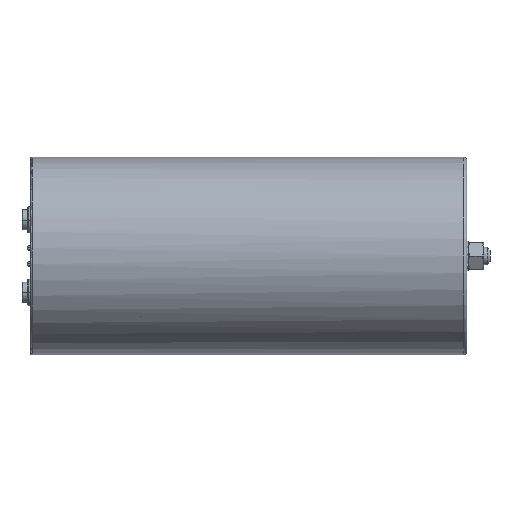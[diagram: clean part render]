
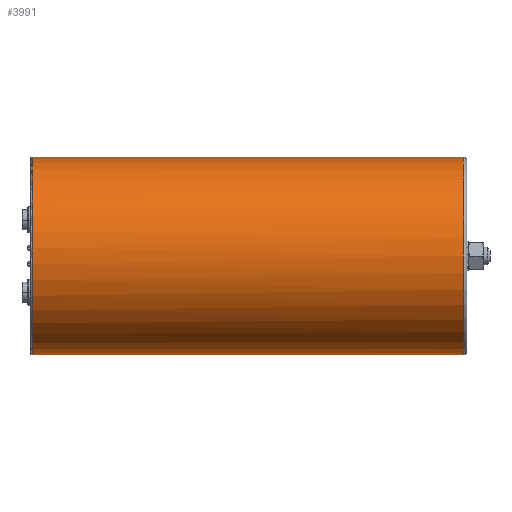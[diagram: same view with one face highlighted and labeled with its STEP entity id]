
A CAD part, left-side view. The second image highlights one B-rep face of the part: STEP entity #3991.
In plain terms, the highlighted cylindrical face has radius 68 mm (diameter 136 mm), a partial arc.
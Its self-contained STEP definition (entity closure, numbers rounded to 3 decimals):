
#33 = DIRECTION ( 'NONE',  ( 0., -1., 0. ) ) ;
#134 = CARTESIAN_POINT ( 'NONE',  ( 0., 2., -68. ) ) ;
#162 = DIRECTION ( 'NONE',  ( 0., -1., 0. ) ) ;
#197 = DIRECTION ( 'NONE',  ( 0., 0., -1. ) ) ;
#714 = EDGE_LOOP ( 'NONE', ( #6530, #7298, #4384, #2577, #973 ) ) ;
#909 = CIRCLE ( 'NONE', #3167, 68. ) ;
#973 = ORIENTED_EDGE ( 'NONE', *, *, #2787, .T. ) ;
#1002 = CARTESIAN_POINT ( 'NONE',  ( 0., 2., 68. ) ) ;
#1239 = CARTESIAN_POINT ( 'NONE',  ( 0., 0., 0. ) ) ;
#1538 = CIRCLE ( 'NONE', #6048, 68. ) ;
#1629 = EDGE_CURVE ( 'NONE', #4105, #2422, #3180, .T. ) ;
#1832 = FACE_OUTER_BOUND ( 'NONE', #714, .T. ) ;
#1920 = DIRECTION ( 'NONE',  ( 0., -1., 0. ) ) ;
#2029 = DIRECTION ( 'NONE',  ( 0., -1., 0. ) ) ;
#2152 = VECTOR ( 'NONE', #33, 1000. ) ;
#2331 = EDGE_CURVE ( 'NONE', #3397, #5951, #4148, .T. ) ;
#2422 = VERTEX_POINT ( 'NONE', #134 ) ;
#2428 = DIRECTION ( 'NONE',  ( 0., 0., -1. ) ) ;
#2577 = ORIENTED_EDGE ( 'NONE', *, *, #1629, .T. ) ;
#2656 = CARTESIAN_POINT ( 'NONE',  ( 0., 0., -68. ) ) ;
#2787 = EDGE_CURVE ( 'NONE', #2422, #4824, #1538, .T. ) ;
#3086 = AXIS2_PLACEMENT_3D ( 'NONE', #4067, #1920, #5742 ) ;
#3167 = AXIS2_PLACEMENT_3D ( 'NONE', #4817, #4258, #3709 ) ;
#3180 = LINE ( 'NONE', #2656, #6875 ) ;
#3206 = CARTESIAN_POINT ( 'NONE',  ( 0., 299., -68. ) ) ;
#3397 = VERTEX_POINT ( 'NONE', #5174 ) ;
#3501 = EDGE_CURVE ( 'NONE', #3397, #4824, #4448, .T. ) ;
#3537 = CYLINDRICAL_SURFACE ( 'NONE', #3699, 68. ) ;
#3699 = AXIS2_PLACEMENT_3D ( 'NONE', #1239, #162, #197 ) ;
#3709 = DIRECTION ( 'NONE',  ( -0.737, 0., 0.676 ) ) ;
#3991 = ADVANCED_FACE ( 'NONE', ( #1832 ), #3537, .T. ) ;
#4067 = CARTESIAN_POINT ( 'NONE',  ( 0., 299., 0. ) ) ;
#4105 = VERTEX_POINT ( 'NONE', #3206 ) ;
#4148 = CIRCLE ( 'NONE', #3086, 68. ) ;
#4258 = DIRECTION ( 'NONE',  ( 0., -1., 0. ) ) ;
#4384 = ORIENTED_EDGE ( 'NONE', *, *, #5135, .T. ) ;
#4448 = LINE ( 'NONE', #6710, #2152 ) ;
#4780 = CARTESIAN_POINT ( 'NONE',  ( -50.101, 299., 45.977 ) ) ;
#4817 = CARTESIAN_POINT ( 'NONE',  ( 0., 299., 0. ) ) ;
#4824 = VERTEX_POINT ( 'NONE', #1002 ) ;
#5135 = EDGE_CURVE ( 'NONE', #5951, #4105, #909, .T. ) ;
#5174 = CARTESIAN_POINT ( 'NONE',  ( 0., 299., 68. ) ) ;
#5243 = CARTESIAN_POINT ( 'NONE',  ( 0., 2., 0. ) ) ;
#5733 = DIRECTION ( 'NONE',  ( 0., 1., 0. ) ) ;
#5742 = DIRECTION ( 'NONE',  ( -0.737, 0., 0.676 ) ) ;
#5951 = VERTEX_POINT ( 'NONE', #4780 ) ;
#6048 = AXIS2_PLACEMENT_3D ( 'NONE', #5243, #5733, #2428 ) ;
#6530 = ORIENTED_EDGE ( 'NONE', *, *, #3501, .F. ) ;
#6710 = CARTESIAN_POINT ( 'NONE',  ( 0., 0., 68. ) ) ;
#6875 = VECTOR ( 'NONE', #2029, 1000. ) ;
#7298 = ORIENTED_EDGE ( 'NONE', *, *, #2331, .T. ) ;
